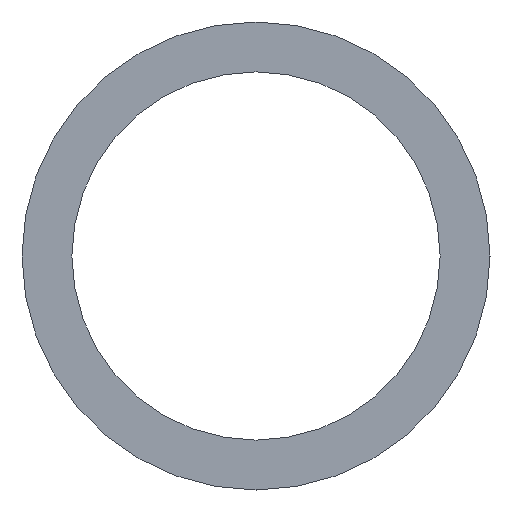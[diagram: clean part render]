
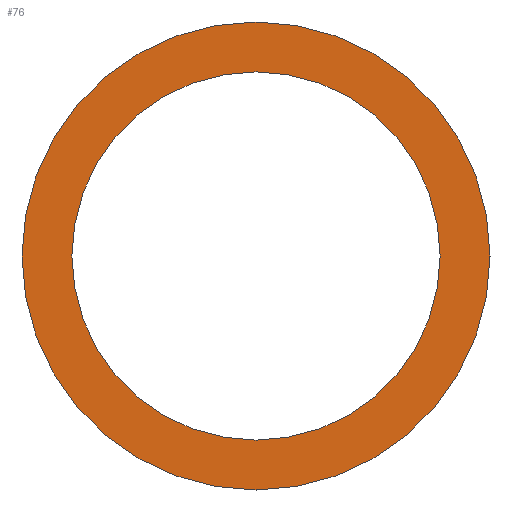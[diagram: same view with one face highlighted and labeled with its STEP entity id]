
A CAD part, front view. The second image highlights one B-rep face of the part: STEP entity #76.
In plain terms, the highlighted planar face has unit normal (0, -1, 0).
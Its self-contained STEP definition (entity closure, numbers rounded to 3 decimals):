
#49 = ORIENTED_EDGE ( 'NONE', *, *, #3704, .F. ) ;
#65 = CARTESIAN_POINT ( 'NONE',  ( 0., -37.5, -152.5 ) ) ;
#76 = ADVANCED_FACE ( 'NONE', ( #4030, #3248 ), #176, .F. ) ;
#91 = DIRECTION ( 'NONE',  ( 0., 0., -1. ) ) ;
#141 = ORIENTED_EDGE ( 'NONE', *, *, #3824, .T. ) ;
#168 = EDGE_LOOP ( 'NONE', ( #141, #5256 ) ) ;
#176 = PLANE ( 'NONE',  #427 ) ;
#276 = AXIS2_PLACEMENT_3D ( 'NONE', #795, #1295, #4848 ) ;
#296 = CARTESIAN_POINT ( 'NONE',  ( 0., -37.5, 0. ) ) ;
#327 = VERTEX_POINT ( 'NONE', #2971 ) ;
#427 = AXIS2_PLACEMENT_3D ( 'NONE', #2198, #5765, #5701 ) ;
#459 = DIRECTION ( 'NONE',  ( 0., 0., -1. ) ) ;
#795 = CARTESIAN_POINT ( 'NONE',  ( 0., -37.5, 0. ) ) ;
#899 = CARTESIAN_POINT ( 'NONE',  ( 0., -37.5, -120. ) ) ;
#1150 = AXIS2_PLACEMENT_3D ( 'NONE', #296, #2794, #3333 ) ;
#1189 = VERTEX_POINT ( 'NONE', #65 ) ;
#1295 = DIRECTION ( 'NONE',  ( 0., -1., 0. ) ) ;
#1460 = ORIENTED_EDGE ( 'NONE', *, *, #1762, .F. ) ;
#1762 = EDGE_CURVE ( 'NONE', #4001, #327, #2428, .T. ) ;
#2165 = AXIS2_PLACEMENT_3D ( 'NONE', #6563, #6490, #459 ) ;
#2198 = CARTESIAN_POINT ( 'NONE',  ( 0., -37.5, 120. ) ) ;
#2361 = VERTEX_POINT ( 'NONE', #3517 ) ;
#2428 = CIRCLE ( 'NONE', #1150, 120. ) ;
#2794 = DIRECTION ( 'NONE',  ( 0., -1., 0. ) ) ;
#2971 = CARTESIAN_POINT ( 'NONE',  ( 0., -37.5, 120. ) ) ;
#3162 = CARTESIAN_POINT ( 'NONE',  ( 0., -37.5, 0. ) ) ;
#3248 = FACE_OUTER_BOUND ( 'NONE', #168, .T. ) ;
#3333 = DIRECTION ( 'NONE',  ( 0., 0., -1. ) ) ;
#3517 = CARTESIAN_POINT ( 'NONE',  ( 0., -37.5, 152.5 ) ) ;
#3592 = DIRECTION ( 'NONE',  ( 0., -1., 0. ) ) ;
#3704 = EDGE_CURVE ( 'NONE', #327, #4001, #5600, .T. ) ;
#3824 = EDGE_CURVE ( 'NONE', #1189, #2361, #5757, .T. ) ;
#4001 = VERTEX_POINT ( 'NONE', #899 ) ;
#4030 = FACE_BOUND ( 'NONE', #5744, .T. ) ;
#4847 = AXIS2_PLACEMENT_3D ( 'NONE', #3162, #3592, #91 ) ;
#4848 = DIRECTION ( 'NONE',  ( 0., 0., -1. ) ) ;
#4960 = EDGE_CURVE ( 'NONE', #2361, #1189, #5587, .T. ) ;
#5256 = ORIENTED_EDGE ( 'NONE', *, *, #4960, .T. ) ;
#5587 = CIRCLE ( 'NONE', #2165, 152.5 ) ;
#5600 = CIRCLE ( 'NONE', #4847, 120. ) ;
#5701 = DIRECTION ( 'NONE',  ( 0., 0., 1. ) ) ;
#5744 = EDGE_LOOP ( 'NONE', ( #1460, #49 ) ) ;
#5757 = CIRCLE ( 'NONE', #276, 152.5 ) ;
#5765 = DIRECTION ( 'NONE',  ( 0., 1., 0. ) ) ;
#6490 = DIRECTION ( 'NONE',  ( 0., -1., 0. ) ) ;
#6563 = CARTESIAN_POINT ( 'NONE',  ( 0., -37.5, 0. ) ) ;
